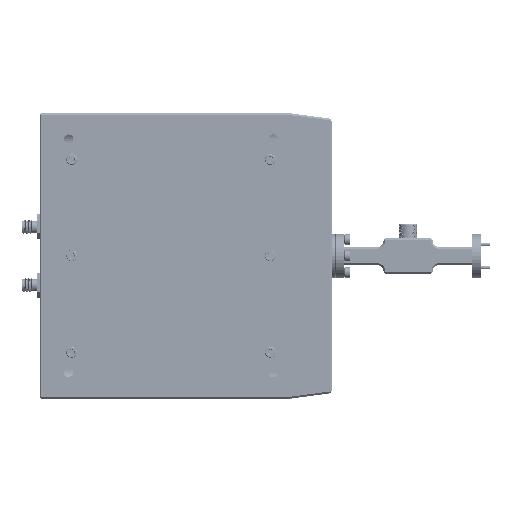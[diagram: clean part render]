
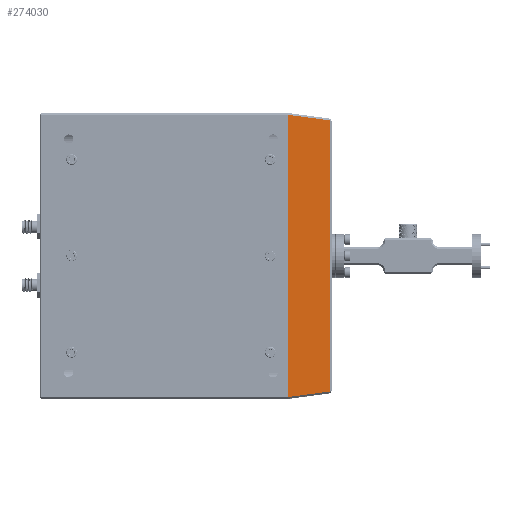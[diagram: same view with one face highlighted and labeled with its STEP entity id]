
A CAD part, top view. The second image highlights one B-rep face of the part: STEP entity #274030.
In plain terms, the highlighted planar face has unit normal (0, 0, 1).
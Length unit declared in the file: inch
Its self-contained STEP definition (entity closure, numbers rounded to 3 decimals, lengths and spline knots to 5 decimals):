
#1014 = CARTESIAN_POINT ( 'NONE',  ( 2.31663, 2.37476, 0.25 ) ) ;
#107094 = VECTOR ( 'NONE', #277040, 39.37008 ) ;
#108710 = DIRECTION ( 'NONE',  ( 0., 0., -1. ) ) ;
#130930 = DIRECTION ( 'NONE',  ( -0.991, 0.132, 0. ) ) ;
#185475 = CARTESIAN_POINT ( 'NONE',  ( 2., 2.41698, 0.25 ) ) ;
#189031 = CARTESIAN_POINT ( 'NONE',  ( 2., -2.41698, 0.25 ) ) ;
#221045 = ORIENTED_EDGE ( 'NONE', *, *, #277310, .T. ) ;
#246621 = VECTOR ( 'NONE', #130930, 39.37008 ) ;
#256317 = VERTEX_POINT ( 'NONE', #724890 ) ;
#274030 = ADVANCED_FACE ( 'NONE', ( #631634 ), #497747, .F. ) ;
#276401 = AXIS2_PLACEMENT_3D ( 'NONE', #359687, #108710, #748653 ) ;
#277040 = DIRECTION ( 'NONE',  ( 0.991, 0.132, 0. ) ) ;
#277310 = EDGE_CURVE ( 'NONE', #288888, #256317, #389615, .T. ) ;
#278661 = CARTESIAN_POINT ( 'NONE',  ( 2.72, -2.32098, 0.25 ) ) ;
#280580 = CARTESIAN_POINT ( 'NONE',  ( 2.72, 2.32098, 0.25 ) ) ;
#288888 = VERTEX_POINT ( 'NONE', #185475 ) ;
#306372 = ORIENTED_EDGE ( 'NONE', *, *, #382951, .T. ) ;
#359687 = CARTESIAN_POINT ( 'NONE',  ( 2., 0., 0.25 ) ) ;
#363151 = LINE ( 'NONE', #484175, #107094 ) ;
#382951 = EDGE_CURVE ( 'NONE', #710047, #622849, #588680, .T. ) ;
#389615 = B_SPLINE_CURVE_WITH_KNOTS ( 'NONE', 3,
 ( #841678, #513182, #396266, #189031 ),
 .UNSPECIFIED., .F., .F.,
 ( 4, 4 ),
 ( 0.00618, 0.99382 ),
 .UNSPECIFIED. ) ;
#396266 = CARTESIAN_POINT ( 'NONE',  ( 2., -0.80566, 0.25 ) ) ;
#476133 = ORIENTED_EDGE ( 'NONE', *, *, #824991, .T. ) ;
#484175 = CARTESIAN_POINT ( 'NONE',  ( 2.31663, -2.37476, 0.25 ) ) ;
#497747 = PLANE ( 'NONE',  #276401 ) ;
#513182 = CARTESIAN_POINT ( 'NONE',  ( 2., 0.80566, 0.25 ) ) ;
#536633 = CARTESIAN_POINT ( 'NONE',  ( 2.72, 0., 0.25 ) ) ;
#546321 = VECTOR ( 'NONE', #787499, 39.37008 ) ;
#588680 = LINE ( 'NONE', #536633, #546321 ) ;
#622849 = VERTEX_POINT ( 'NONE', #280580 ) ;
#631634 = FACE_OUTER_BOUND ( 'NONE', #782721, .T. ) ;
#647000 = ORIENTED_EDGE ( 'NONE', *, *, #712095, .T. ) ;
#710047 = VERTEX_POINT ( 'NONE', #278661 ) ;
#712095 = EDGE_CURVE ( 'NONE', #256317, #710047, #363151, .T. ) ;
#723012 = LINE ( 'NONE', #1014, #246621 ) ;
#724890 = CARTESIAN_POINT ( 'NONE',  ( 2., -2.41698, 0.25 ) ) ;
#748653 = DIRECTION ( 'NONE',  ( 1., 0., 0. ) ) ;
#782721 = EDGE_LOOP ( 'NONE', ( #306372, #476133, #221045, #647000 ) ) ;
#787499 = DIRECTION ( 'NONE',  ( 0., 1., 0. ) ) ;
#824991 = EDGE_CURVE ( 'NONE', #622849, #288888, #723012, .T. ) ;
#841678 = CARTESIAN_POINT ( 'NONE',  ( 2., 2.41698, 0.25 ) ) ;
